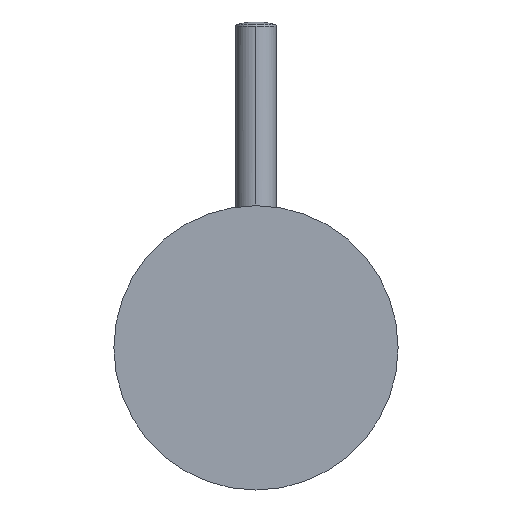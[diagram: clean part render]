
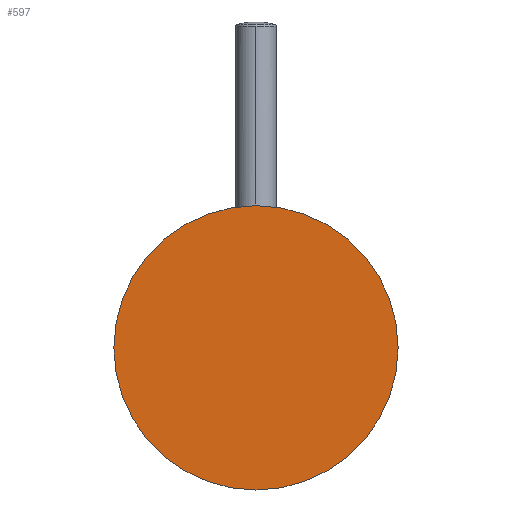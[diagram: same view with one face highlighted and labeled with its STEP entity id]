
A CAD part, front view. The second image highlights one B-rep face of the part: STEP entity #597.
In plain terms, the highlighted planar face has unit normal (0, -1, 0).
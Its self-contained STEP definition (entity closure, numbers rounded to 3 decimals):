
#76 = FACE_OUTER_BOUND ( 'NONE', #967, .T. ) ;
#209 = DIRECTION ( 'NONE',  ( -1., 0., 0. ) ) ;
#216 = AXIS2_PLACEMENT_3D ( 'NONE', #1130, #1722, #209 ) ;
#219 = AXIS2_PLACEMENT_3D ( 'NONE', #1830, #1522, #790 ) ;
#296 = DIRECTION ( 'NONE',  ( 1., 0., 0. ) ) ;
#310 = CARTESIAN_POINT ( 'NONE',  ( -34.9, 0., 0. ) ) ;
#369 = ORIENTED_EDGE ( 'NONE', *, *, #855, .T. ) ;
#490 = VERTEX_POINT ( 'NONE', #310 ) ;
#545 = ORIENTED_EDGE ( 'NONE', *, *, #1161, .T. ) ;
#562 = CIRCLE ( 'NONE', #1510, 34.9 ) ;
#597 = ADVANCED_FACE ( 'NONE', ( #76 ), #859, .F. ) ;
#610 = DIRECTION ( 'NONE',  ( 0., -1., 0. ) ) ;
#790 = DIRECTION ( 'NONE',  ( 1., 0., 0. ) ) ;
#836 = CIRCLE ( 'NONE', #219, 34.9 ) ;
#855 = EDGE_CURVE ( 'NONE', #1101, #490, #562, .T. ) ;
#859 = PLANE ( 'NONE',  #216 ) ;
#967 = EDGE_LOOP ( 'NONE', ( #369, #545 ) ) ;
#1033 = CARTESIAN_POINT ( 'NONE',  ( 34.9, 0., 0. ) ) ;
#1101 = VERTEX_POINT ( 'NONE', #1033 ) ;
#1130 = CARTESIAN_POINT ( 'NONE',  ( 0., 0., 0. ) ) ;
#1161 = EDGE_CURVE ( 'NONE', #490, #1101, #836, .T. ) ;
#1510 = AXIS2_PLACEMENT_3D ( 'NONE', #1930, #610, #296 ) ;
#1522 = DIRECTION ( 'NONE',  ( 0., -1., 0. ) ) ;
#1722 = DIRECTION ( 'NONE',  ( 0., 1., 0. ) ) ;
#1830 = CARTESIAN_POINT ( 'NONE',  ( 0., 0., 0. ) ) ;
#1930 = CARTESIAN_POINT ( 'NONE',  ( 0., 0., 0. ) ) ;
